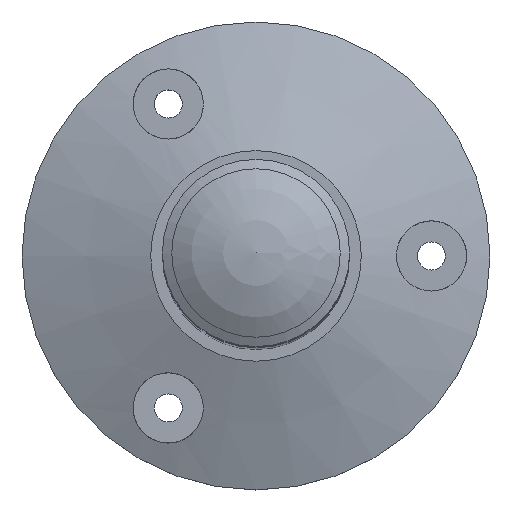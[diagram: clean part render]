
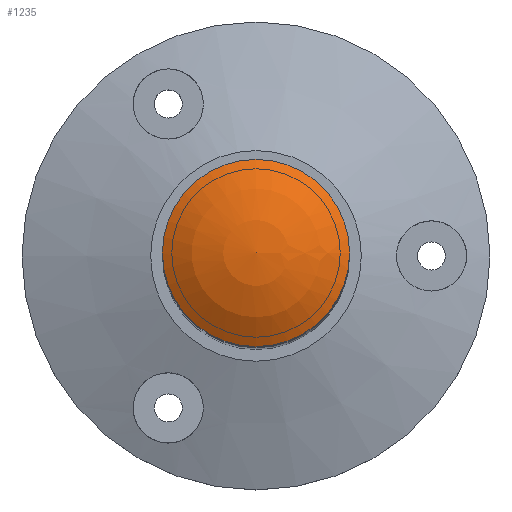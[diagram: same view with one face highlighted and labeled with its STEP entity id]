
A CAD part, top view. The second image highlights one B-rep face of the part: STEP entity #1235.
In plain terms, the highlighted spherical face has radius 72.667 mm.
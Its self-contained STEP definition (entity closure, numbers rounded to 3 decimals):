
#1189 = VERTEX_POINT('',#1190);
#1190 = CARTESIAN_POINT('',(40.,0.,738.));
#1196 = EDGE_CURVE('',#1189,#1197,#1199,.T.);
#1197 = VERTEX_POINT('',#1198);
#1198 = CARTESIAN_POINT('',(0.,40.,738.));
#1199 = CIRCLE('',#1200,40.);
#1200 = AXIS2_PLACEMENT_3D('',#1201,#1202,#1203);
#1201 = CARTESIAN_POINT('',(0.,0.,738.));
#1202 = DIRECTION('',(0.,0.,1.));
#1203 = DIRECTION('',(1.,0.,0.));
#1205 = EDGE_CURVE('',#1197,#1206,#1208,.T.);
#1206 = VERTEX_POINT('',#1207);
#1207 = CARTESIAN_POINT('',(-40.,0.,738.));
#1208 = CIRCLE('',#1209,40.);
#1209 = AXIS2_PLACEMENT_3D('',#1210,#1211,#1212);
#1210 = CARTESIAN_POINT('',(0.,0.,738.));
#1211 = DIRECTION('',(0.,0.,1.));
#1212 = DIRECTION('',(1.,0.,0.));
#1214 = EDGE_CURVE('',#1206,#1215,#1217,.T.);
#1215 = VERTEX_POINT('',#1216);
#1216 = CARTESIAN_POINT('',(0.,-40.,738.));
#1217 = CIRCLE('',#1218,40.);
#1218 = AXIS2_PLACEMENT_3D('',#1219,#1220,#1221);
#1219 = CARTESIAN_POINT('',(0.,0.,738.));
#1220 = DIRECTION('',(0.,0.,1.));
#1221 = DIRECTION('',(1.,0.,0.));
#1223 = EDGE_CURVE('',#1215,#1189,#1224,.T.);
#1224 = CIRCLE('',#1225,40.);
#1225 = AXIS2_PLACEMENT_3D('',#1226,#1227,#1228);
#1226 = CARTESIAN_POINT('',(0.,0.,738.));
#1227 = DIRECTION('',(0.,0.,1.));
#1228 = DIRECTION('',(1.,0.,0.));
#1235 = ADVANCED_FACE('',(#1236),#1252,.T.);
#1236 = FACE_BOUND('',#1237,.T.);
#1237 = EDGE_LOOP('',(#1238,#1239,#1248,#1249,#1250,#1251));
#1238 = ORIENTED_EDGE('',*,*,#1223,.T.);
#1239 = ORIENTED_EDGE('',*,*,#1240,.T.);
#1240 = EDGE_CURVE('',#1189,#1241,#1243,.T.);
#1241 = VERTEX_POINT('',#1242);
#1242 = CARTESIAN_POINT('',(0.,0.,750.)
  );
#1243 = CIRCLE('',#1244,72.667);
#1244 = AXIS2_PLACEMENT_3D('',#1245,#1246,#1247);
#1245 = CARTESIAN_POINT('',(0.,0.,677.333));
#1246 = DIRECTION('',(0.,-1.,0.));
#1247 = DIRECTION('',(1.,0.,0.));
#1248 = ORIENTED_EDGE('',*,*,#1240,.F.);
#1249 = ORIENTED_EDGE('',*,*,#1196,.T.);
#1250 = ORIENTED_EDGE('',*,*,#1205,.T.);
#1251 = ORIENTED_EDGE('',*,*,#1214,.T.);
#1252 = SPHERICAL_SURFACE('',#1253,72.667);
#1253 = AXIS2_PLACEMENT_3D('',#1254,#1255,#1256);
#1254 = CARTESIAN_POINT('',(0.,0.,677.333));
#1255 = DIRECTION('',(0.,0.,1.));
#1256 = DIRECTION('',(1.,0.,0.));
